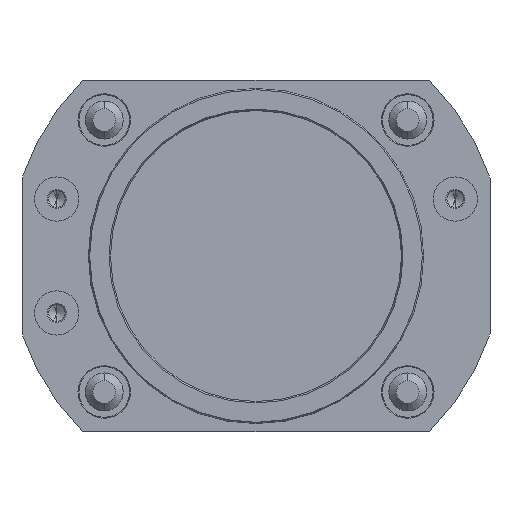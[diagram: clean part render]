
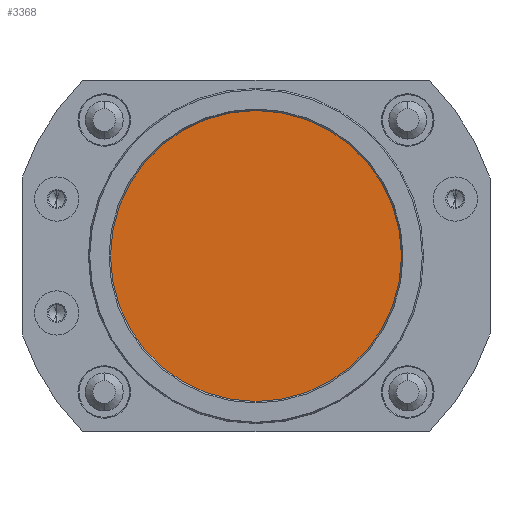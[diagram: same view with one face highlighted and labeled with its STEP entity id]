
A CAD part, front view. The second image highlights one B-rep face of the part: STEP entity #3368.
In plain terms, the highlighted planar face has unit normal (0, -1, 0).
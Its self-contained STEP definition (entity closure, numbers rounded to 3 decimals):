
#3208 = EDGE_CURVE ( 'NONE', #3268, #3222, #6306, .T. ) ;
#3222 = VERTEX_POINT ( 'NONE', #6299 ) ;
#3268 = VERTEX_POINT ( 'NONE', #6419 ) ;
#3368 = ADVANCED_FACE ( 'NONE', ( #6563 ), #6573, .T. ) ;
#3381 = ORIENTED_EDGE ( 'NONE', *, *, #3391, .F. ) ;
#3391 = EDGE_CURVE ( 'NONE', #3222, #3268, #6603, .T. ) ;
#3400 = ORIENTED_EDGE ( 'NONE', *, *, #3208, .F. ) ;
#3411 = EDGE_LOOP ( 'NONE', ( #3381, #3400 ) ) ;
#6290 = DIRECTION ( 'NONE',  ( 0., 1., 0. ) ) ;
#6297 = CARTESIAN_POINT ( 'NONE',  ( 0., 3., 0. ) ) ;
#6298 = AXIS2_PLACEMENT_3D ( 'NONE', #6297, #6290, #6345 ) ;
#6299 = CARTESIAN_POINT ( 'NONE',  ( 0., 3., 23. ) ) ;
#6306 = CIRCLE ( 'NONE', #6298, 23. ) ;
#6345 = DIRECTION ( 'NONE',  ( 0., 0., 1. ) ) ;
#6419 = CARTESIAN_POINT ( 'NONE',  ( 0., 3., -23. ) ) ;
#6509 = CARTESIAN_POINT ( 'NONE',  ( 0., 3., 0. ) ) ;
#6563 = FACE_OUTER_BOUND ( 'NONE', #3411, .T. ) ;
#6573 = PLANE ( 'NONE',  #6592 ) ;
#6583 = DIRECTION ( 'NONE',  ( 0., -1., 0. ) ) ;
#6592 = AXIS2_PLACEMENT_3D ( 'NONE', #6509, #6583, #6613 ) ;
#6599 = AXIS2_PLACEMENT_3D ( 'NONE', #6637, #6632, #6629 ) ;
#6603 = CIRCLE ( 'NONE', #6599, 23. ) ;
#6613 = DIRECTION ( 'NONE',  ( 0., 0., -1. ) ) ;
#6629 = DIRECTION ( 'NONE',  ( 0., 0., 1. ) ) ;
#6632 = DIRECTION ( 'NONE',  ( 0., 1., 0. ) ) ;
#6637 = CARTESIAN_POINT ( 'NONE',  ( 0., 3., 0. ) ) ;
